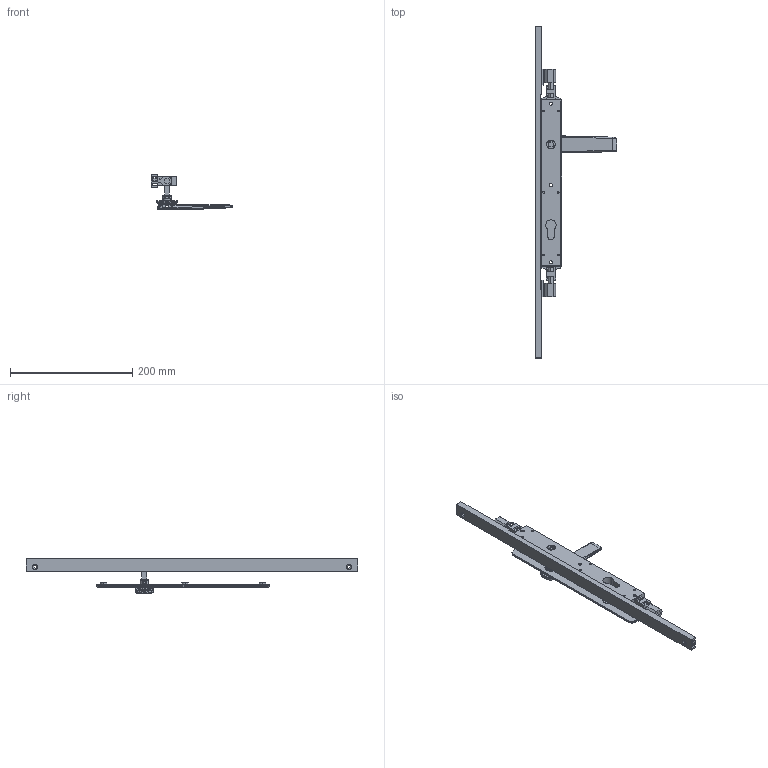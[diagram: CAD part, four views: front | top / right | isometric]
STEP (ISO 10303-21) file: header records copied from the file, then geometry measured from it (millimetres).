
FILE_DESCRIPTION (( 'STEP AP214' ), '1' );
FILE_NAME ('TPL-W-APC-607-U 28Oct2024.STEP', '2024-10-28T03:46:08', ( '' ), ( '' ), 'SwSTEP 2.0', 'SolidWorks 2023', '' );
FILE_SCHEMA (( 'AUTOMOTIVE_DESIGN' ));
Length unit declared in the file: millimetre
Products named in the file (18): Copy of TPLGen2 lock body keyed assembly^TPL-W-APC-107 18Oct2024_Bolts retracted - right; Copy of TPGen2 handle non-keyed long zinc - simplified^TPL-W-APC-107 18Oct2024_Left; Copy of LKC-584 Pivot body zinc - simplified^Copy of TPGen2 handle non-keyed long zinc - simplified_TPL-W-APC-107 18Oct2024; Copy of Copy of Copy of LKC-531 Lock twinpoint transmission rod wood system^TPL-W-APC-107 18Oct2024_Standard Range 2891.7mm; Copy of LKC-585 Rotator body zinc^Copy of TPGen2 handle non-keyed long zinc - simplified_TPL-W-APC-107 18Oct2024; TPL-W-APC-607-U 28Oct2024; Copy of TPLGen2 lock body keyed^Copy of TPLGen2 lock body keyed assembly_TPL-W-APC-107 18Oct2024_Right; Copy of LKC-586 Spindle square 8mm with M4 hole^Copy of TPGen2 handle non-keyed long zinc - simplified_TPL-W-APC-107 18Oct2024_37mm; Copy of COV-115-C Cover C suit TPLGen2 standard range AU^TPL-W-APC-107 18Oct2024; Adapter D - simplfied^TPL-W-APC-107 18Oct2024; Copy of COV-115-B Cover B suit TPLGen2 standard range AU with hinge holes^TPL-W-APC-107 18Oct2024_2870mm; Adapter C - simplfied^TPL-W-APC-107 18Oct2024; Copy of COV-115-A Cover A suit TPLGen2 standard range AU with hinge holes^TPL-W-APC-107 18Oct2024_1335mm; Copy of TPLGen2 push rod - simplified^Copy of TPLGen2 lock body keyed assembly_TPL-W-APC-107 18Oct2024_Female thread M10; Copy of Copy of LKC-531 Lock twinpoint transmission rod wood system^TPL-W-APC-107 18Oct2024_Standard Range 2891.7mm; Copy of LKC-505 Swing handle zinc - simplified^Copy of TPGen2 handle non-keyed long zinc - simplified_TPL-W-APC-107 18Oct2024; Bolt(2)^TPL-W-APC-107 18Oct2024; Copy of LKC-583 Escutcheon plate unkeyed 285mm long zinc - simplified^Copy of TPGen2 handle non-keyed long zinc - simplified_TPL-W-APC-107 18Oct2024
Assembly tree (15 placements, depth 3):
  TPL-W-APC-607-U 28Oct2024
    Copy of TPLGen2 lock body keyed assembly^TPL-W-APC-107 18Oct2024_Bolts retracted - right
      Copy of TPLGen2 lock body keyed^Copy of TPLGen2 lock body keyed assembly_TPL-W-APC-107 18Oct2024_Right
      Copy of TPLGen2 push rod - simplified^Copy of TPLGen2 lock body keyed assembly_TPL-W-APC-107 18Oct2024_Female thread M10  x2
    Copy of TPGen2 handle non-keyed long zinc - simplified^TPL-W-APC-107 18Oct2024_Left
      Copy of LKC-583 Escutcheon plate unkeyed 285mm long zinc - simplified^Copy of TPGen2 handle non-keyed long zinc - simplified_TPL-W-APC-107 18Oct2024
      Copy of LKC-505 Swing handle zinc - simplified^Copy of TPGen2 handle non-keyed long zinc - simplified_TPL-W-APC-107 18Oct2024
      Copy of LKC-585 Rotator body zinc^Copy of TPGen2 handle non-keyed long zinc - simplified_TPL-W-APC-107 18Oct2024
      Copy of LKC-586 Spindle square 8mm with M4 hole^Copy of TPGen2 handle non-keyed long zinc - simplified_TPL-W-APC-107 18Oct2024_37mm
      Copy of LKC-584 Pivot body zinc - simplified^Copy of TPGen2 handle non-keyed long zinc - simplified_TPL-W-APC-107 18Oct2024
    Copy of COV-115-C Cover C suit TPLGen2 standard range AU^TPL-W-APC-107 18Oct2024
    Copy of Copy of LKC-531 Lock twinpoint transmission rod wood system^TPL-W-APC-107 18Oct2024_Standard Range 2891.7mm
    Copy of Copy of Copy of LKC-531 Lock twinpoint transmission rod wood system^TPL-W-APC-107 18Oct2024_Standard Range 2891.7mm
    Adapter D - simplfied^TPL-W-APC-107 18Oct2024
    Adapter C - simplfied^TPL-W-APC-107 18Oct2024
  Copy of COV-115-B Cover B suit TPLGen2 standard range AU with hinge holes^TPL-W-APC-107 18Oct2024_2870mm
  Copy of COV-115-A Cover A suit TPLGen2 standard range AU with hinge holes^TPL-W-APC-107 18Oct2024_1335mm
  Bolt(2)^TPL-W-APC-107 18Oct2024
Bounding box: 134.12 x 544 x 57.06 mm (x, y, z)
Volume: 265519.5 mm3; surface area: 130253 mm2
Topology: 13 solids, 13 shells, 767 faces, 1854 edges, 1138 vertices
Faces by surface type: plane 263, cylinder 198, bspline 176, cone 70, torus 52, sphere 8
Entity records: 27653 total; most frequent: CARTESIAN_POINT 11253, ORIENTED_EDGE 3516, DIRECTION 3088, EDGE_CURVE 1758, AXIS2_PLACEMENT_3D 1183, VERTEX_POINT 1078, EDGE_LOOP 818, ADVANCED_FACE 732
